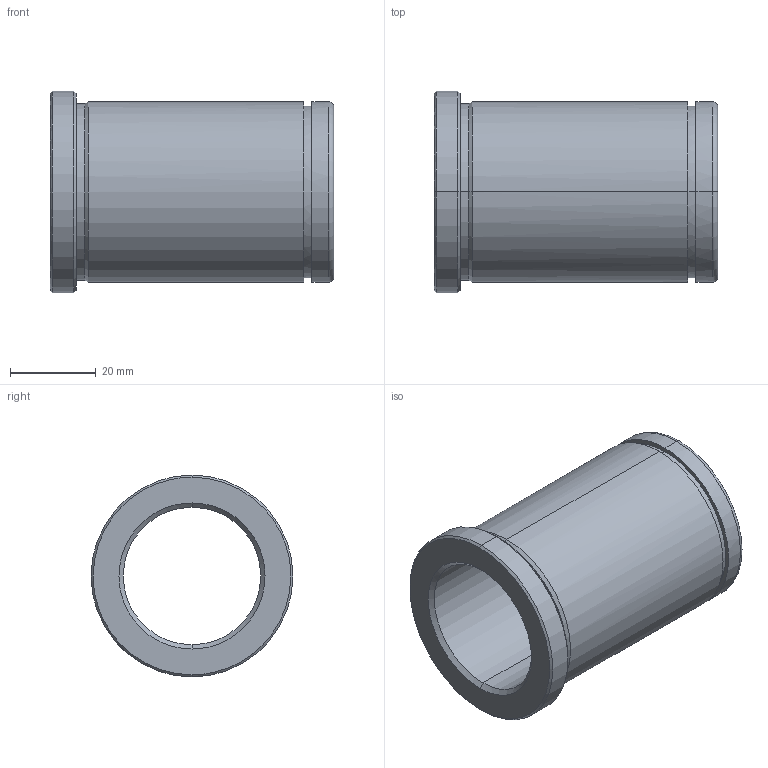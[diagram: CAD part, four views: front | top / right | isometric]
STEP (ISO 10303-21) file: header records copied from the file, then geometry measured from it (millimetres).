
FILE_DESCRIPTION(('CATIA V5 STEP Exchange'),'2;1');
FILE_NAME('C:\Users\Utente\Desktop\IO LAVORO\3D X SITO CF\X SITO\PLASTICA\553\553-32X66.stp','2021-05-26T18:45:20+00:00',('none'),('none'),'CATIA Version 5 Release 20 GA (IN-10)','CATIA V5 STEP AP203','none');
FILE_SCHEMA(('CONFIG_CONTROL_DESIGN'));
Length unit declared in the file: millimetre
Products named in the file (1): 553-32X66
Bounding box: 66 x 47 x 47 mm (x, y, z)
Volume: 39791.1 mm3; surface area: 17301.8 mm2
Topology: 1 solids, 1 shells, 29 faces, 92 edges, 68 vertices
Faces by surface type: cylinder 12, cone 8, plane 5, torus 4
Entity records: 1228 total; most frequent: CARTESIAN_POINT 378, ORIENTED_EDGE 184, DIRECTION 134, EDGE_CURVE 92, AXIS2_PLACEMENT_3D 86, VERTEX_POINT 68, CIRCLE 56, EDGE_LOOP 34
